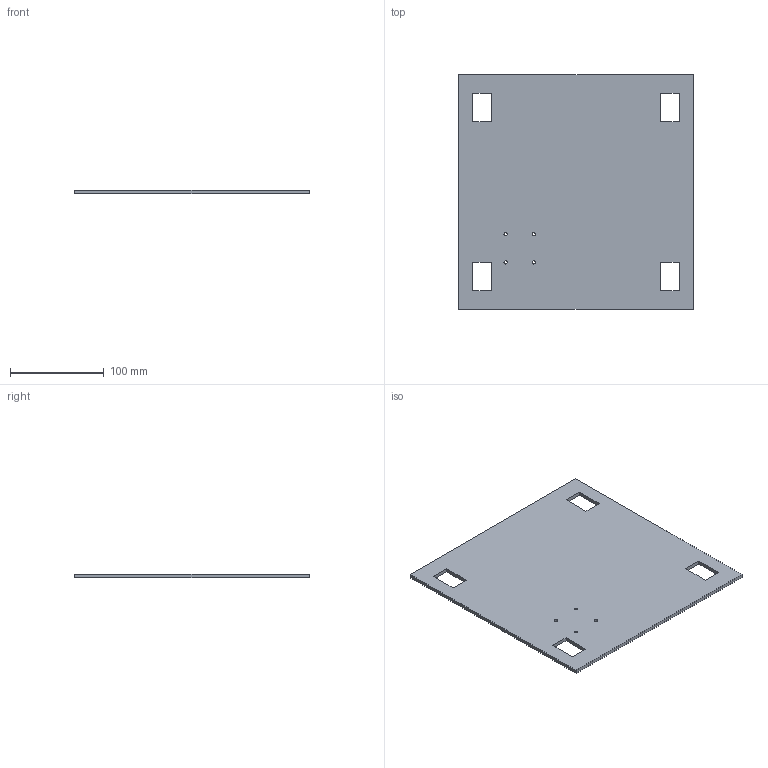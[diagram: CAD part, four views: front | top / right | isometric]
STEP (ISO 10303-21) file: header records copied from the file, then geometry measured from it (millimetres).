
FILE_DESCRIPTION(/* description */ ('STEP AP242 Edition 2','CAx-IF Rec.Pracs.---Representation and Presentation of Product Manufacturing Information (PMI)---4.0---2014-10-13','CAx-IF Rec.Pracs.---3D Tessellated Geometry---0.4---2014-09-14','2;1','CAx-IF Rec.Pracs.---User Defined Attributes---1.5---2016-08-15'),/* implementation_level */ '2;1');
FILE_NAME(/* name */ 'Arm Parts - Backplate',/* time_stamp */ '2026-04-22T00:04:13Z',/* author */ (''),/* organization */ (''),/* preprocessor_version */ 'ST-DEVELOPER v20',/* originating_system */ 'ONSHAPE BY PTC INC, 1.213',/* authorisation */ ' ');
FILE_SCHEMA (('AP242_MANAGED_MODEL_BASED_3D_ENGINEERING_MIM_LF { 1 0 10303 442 3 1 4 }'));
Length unit declared in the file: metre
Products named in the file (1): Backplate
Bounding box: 250 x 250 x 4 mm (x, y, z)
Volume: 240254.7 mm3; surface area: 125898.3 mm2
Topology: 1 solids, 1 shells, 26 faces, 72 edges, 48 vertices
Faces by surface type: plane 22, cylinder 4
Full cylindrical faces by diameter (mm): 3.4 x4
Entity records: 858 total; most frequent: CARTESIAN_POINT 143, ORIENTED_EDGE 136, DIRECTION 130, EDGE_CURVE 68, LINE 60, VECTOR 60, VERTEX_POINT 48, EDGE_LOOP 46
